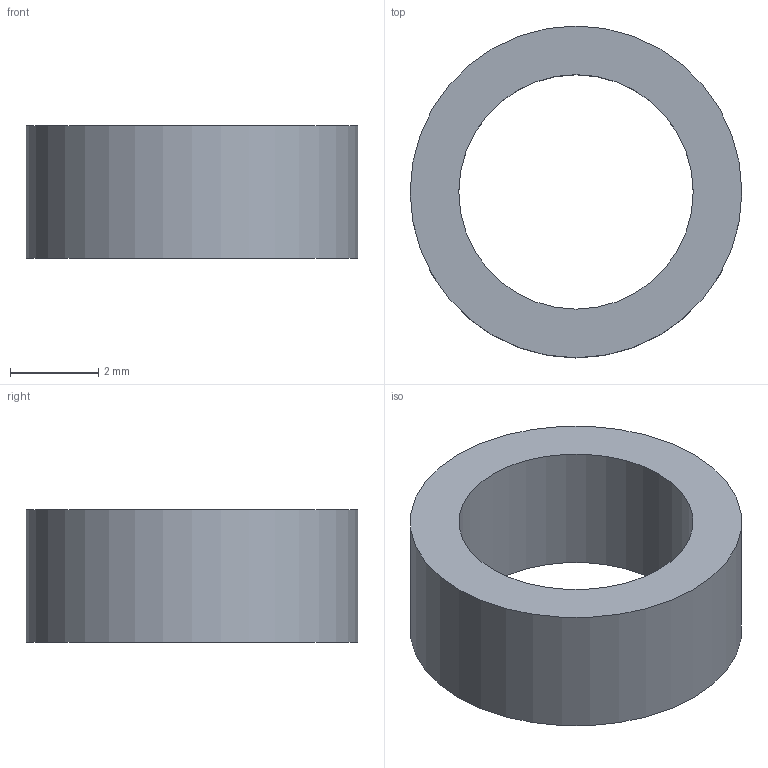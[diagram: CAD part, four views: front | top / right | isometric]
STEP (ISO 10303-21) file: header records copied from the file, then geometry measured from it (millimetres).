
FILE_DESCRIPTION(('Open CASCADE Model'),'2;1');
FILE_NAME('Open CASCADE Shape Model','2026-10-21T12:04:46',('Author'),( 'Open CASCADE'),'Open CASCADE STEP processor 7.9','Open CASCADE 7.9' ,'Unknown');
FILE_SCHEMA(('AUTOMOTIVE_DESIGN { 1 0 10303 214 1 1 1 1 }'));
Length unit declared in the file: millimetre
Products named in the file (1): Open CASCADE STEP translator 7.9 15
Bounding box: 7.5 x 7.5 x 3 mm (x, y, z)
Volume: 66.4 mm3; surface area: 164.9 mm2
Topology: 1 solids, 1 shells, 4 faces, 6 edges, 4 vertices
Faces by surface type: cylinder 2, plane 2
Full cylindrical faces by diameter (mm): 5.3 x1, 7.5 x1
Entity records: 192 total; most frequent: CARTESIAN_POINT 39, DIRECTION 30, ORIENTED_EDGE 12, PCURVE 12, DEFINITIONAL_REPRESENTATION 12, LINE 10, VECTOR 10, AXIS2_PLACEMENT_3D 9
